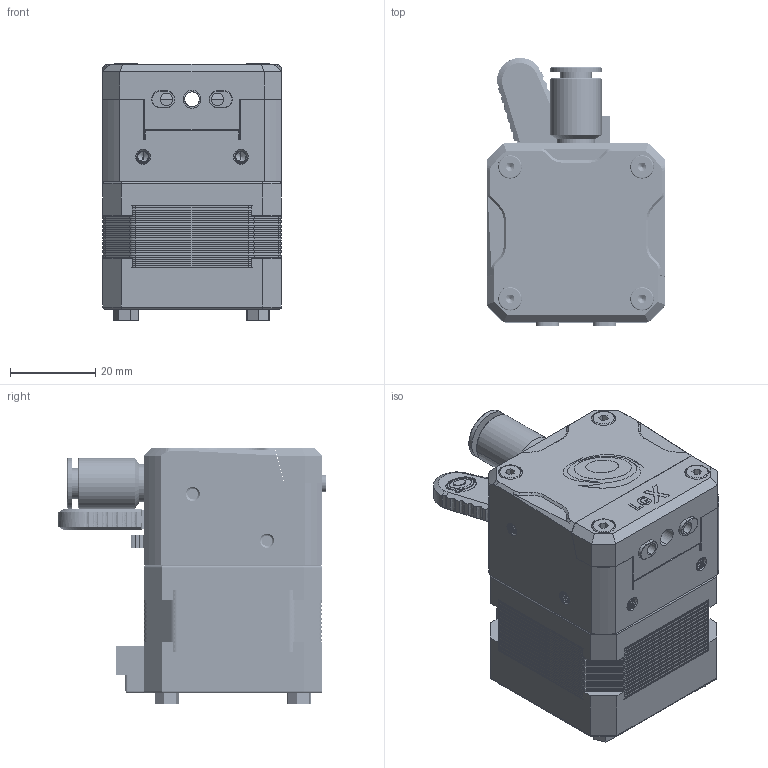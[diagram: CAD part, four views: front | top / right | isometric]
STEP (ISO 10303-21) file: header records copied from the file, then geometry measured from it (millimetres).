
FILE_DESCRIPTION (( 'STEP AP203' ), '1' );
FILE_NAME ('EXT01LGX41176 - LGX Pro Metal 2.85 - Dummy.STEP', '2024-04-12T12:36:26', ( '' ), ( '' ), 'SwSTEP 2.0', 'SolidWorks 2023', '' );
FILE_SCHEMA (( 'CONFIG_CONTROL_DESIGN' ));
Length unit declared in the file: millimetre
Products named in the file (5): M3X23STUD5OBEH_M3X23STUDOBEH; MC6L_M3X8L; EXT01LGX41176 - LGX Pro Metal 2.85 - Dummy; MC6L_M3X30L
Assembly tree (9 placements, depth 2):
  EXT01LGX41176 - LGX Pro Metal 2.85 - Dummy
    EXT01LGX41176 - LGX Pro Metal 2.85 - Dummy
    M3X23STUD5OBEH_M3X23STUDOBEH  x4
    MC6L_M3X8L
    MC6L_M3X30L  x3
Bounding box: 42 x 63.04 x 60.25 mm (x, y, z)
Volume: 99187.3 mm3; surface area: 29699.2 mm2
Topology: 13 solids, 13 shells, 1938 faces, 5203 edges, 3369 vertices
Faces by surface type: cylinder 863, plane 723, bspline 192, cone 128, torus 30, sphere 2
Entity records: 83992 total; most frequent: CARTESIAN_POINT 43578, ORIENTED_EDGE 8960, DIRECTION 7529, EDGE_CURVE 4480, VERTEX_POINT 2928, AXIS2_PLACEMENT_3D 2536, VECTOR 2457, LINE 2457
